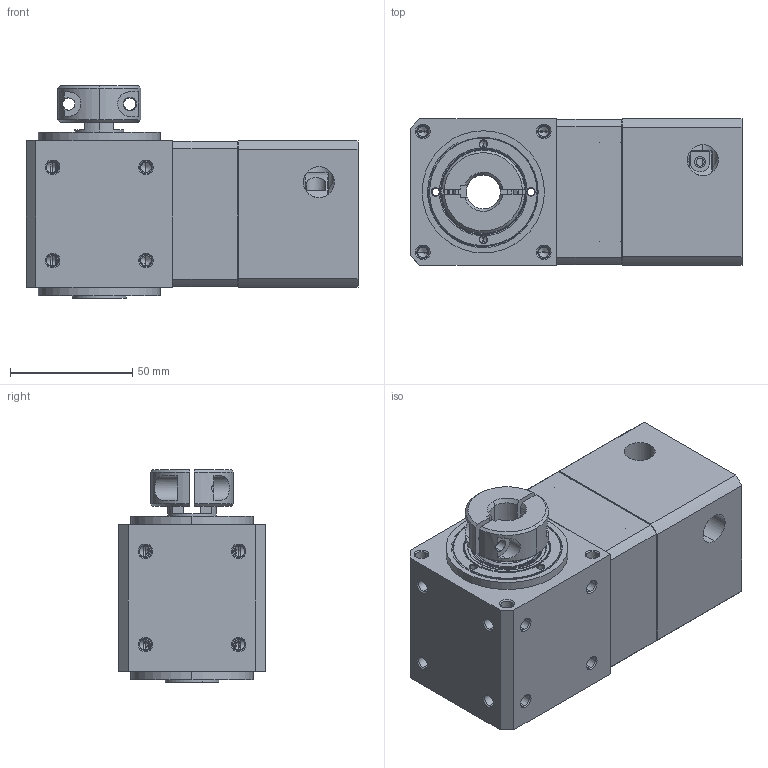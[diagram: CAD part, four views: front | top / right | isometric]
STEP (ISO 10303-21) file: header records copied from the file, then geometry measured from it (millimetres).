
FILE_DESCRIPTION (( 'STEP AP203' ), '1' );
FILE_NAME ('WS60F-□-14-50-70-M5(1：2配GNP60L1).STEP', '2012-12-04T03:39:29', ( 'user' ), ( 'SYNNEX' ), 'SwSTEP 2.0', 'SolidWorks 2008', '' );
FILE_SCHEMA (( 'CONFIG_CONTROL_DESIGN' ));
Length unit declared in the file: millimetre
Products named in the file (1): WS60F-¡¼-14-50-70-M5(1¡G2°tGNP60L1)
Bounding box: 135.87 x 60 x 87 mm (x, y, z)
Volume: 311897.6 mm3; surface area: 126186 mm2
Topology: 13 solids, 13 shells, 1052 faces, 2520 edges, 1513 vertices
Faces by surface type: cylinder 518, cone 257, plane 186, torus 79, bspline 12
Entity records: 36465 total; most frequent: CARTESIAN_POINT 12226, DIRECTION 5362, ORIENTED_EDGE 4880, EDGE_CURVE 2440, AXIS2_PLACEMENT_3D 2229, VERTEX_POINT 1513, EDGE_LOOP 1245, CIRCLE 1188
